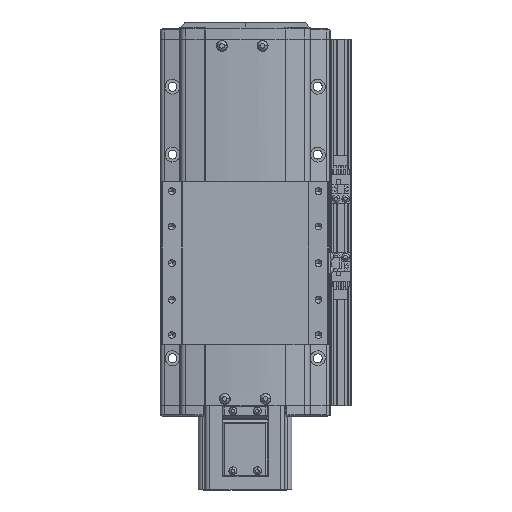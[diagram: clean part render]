
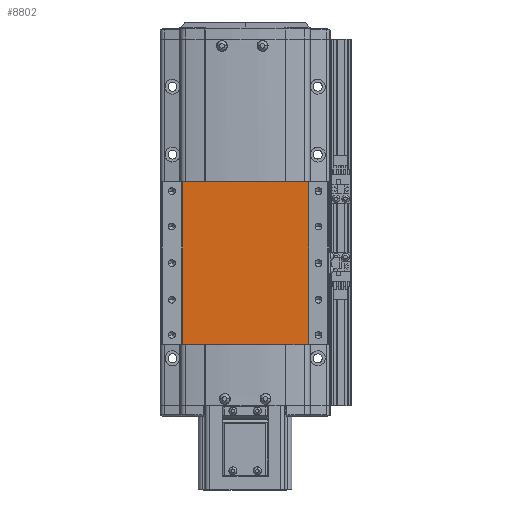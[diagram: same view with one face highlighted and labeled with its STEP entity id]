
A CAD part, top view. The second image highlights one B-rep face of the part: STEP entity #8802.
In plain terms, the highlighted planar face has unit normal (0, 0, 1).
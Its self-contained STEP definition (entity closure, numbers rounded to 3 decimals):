
#8802=ADVANCED_FACE('',(#18595),#18596,.F.);
#18595=FACE_OUTER_BOUND('',#31304,.T.);
#18596=PLANE('',#31305);
#31304=EDGE_LOOP('',(#56936,#56937,#56938,#56939));
#31305=AXIS2_PLACEMENT_3D('',#56940,#56941,#56942);
#56936=ORIENTED_EDGE('',*,*,#67427,.F.);
#56937=ORIENTED_EDGE('',*,*,#71696,.F.);
#56938=ORIENTED_EDGE('',*,*,#69122,.F.);
#56939=ORIENTED_EDGE('',*,*,#76444,.T.);
#56940=CARTESIAN_POINT('',(-300.,42.222,36.5));
#56941=DIRECTION('',(0.,0.,-1.0));
#56942=DIRECTION('',(-1.0,0.,0.));
#67427=EDGE_CURVE('',#80682,#80684,#80685,.T.);
#69122=EDGE_CURVE('',#83582,#83584,#83585,.T.);
#71696=EDGE_CURVE('',#83584,#80682,#87670,.T.);
#76444=EDGE_CURVE('',#83582,#80684,#94057,.T.);
#80682=VERTEX_POINT('',#99412);
#80684=VERTEX_POINT('',#99414);
#80685=LINE('',#99415,#99416);
#83582=VERTEX_POINT('',#103417);
#83584=VERTEX_POINT('',#103419);
#83585=LINE('',#103420,#103421);
#87670=LINE('',#109180,#109181);
#94057=LINE('',#118999,#119000);
#99412=CARTESIAN_POINT('',(-346.376,162.222,36.5));
#99414=CARTESIAN_POINT('',(-253.624,162.222,36.5));
#99415=CARTESIAN_POINT('',(-253.624,162.222,36.5));
#99416=VECTOR('',#123471,10.0);
#103417=CARTESIAN_POINT('',(-253.624,42.222,36.5));
#103419=CARTESIAN_POINT('',(-346.376,42.222,36.5));
#103420=CARTESIAN_POINT('',(-253.624,42.222,36.5));
#103421=VECTOR('',#125903,10.0);
#109180=CARTESIAN_POINT('',(-346.376,42.222,36.5));
#109181=VECTOR('',#129388,10.0);
#118999=CARTESIAN_POINT('',(-253.624,42.222,36.5));
#119000=VECTOR('',#135038,10.0);
#123471=DIRECTION('',(1.0,0.,0.));
#125903=DIRECTION('',(-1.0,0.,0.));
#129388=DIRECTION('',(0.,1.0,0.));
#135038=DIRECTION('',(0.,1.0,0.));
